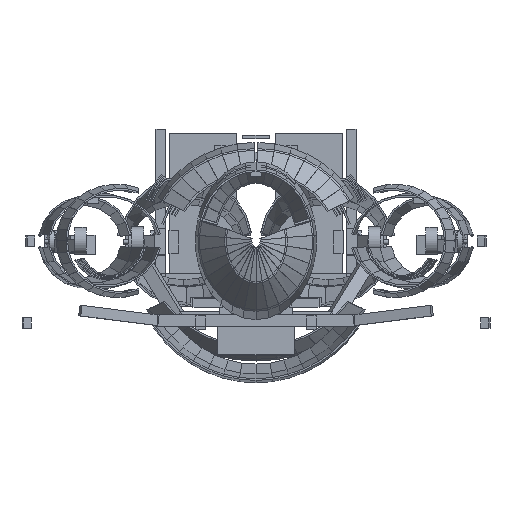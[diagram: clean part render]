
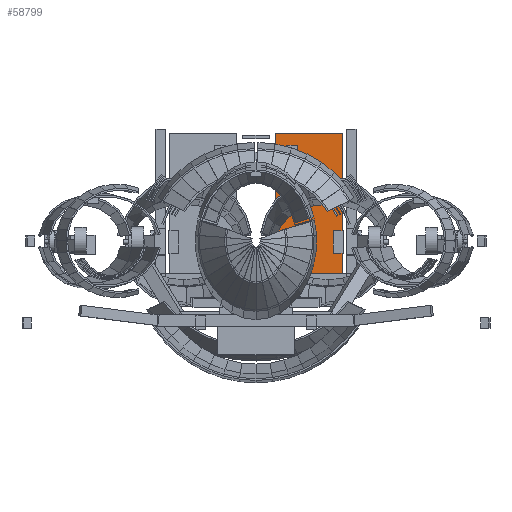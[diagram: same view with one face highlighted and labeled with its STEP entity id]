
A CAD part, top view. The second image highlights one B-rep face of the part: STEP entity #58799.
In plain terms, the highlighted planar face has unit normal (0, 0, 1).
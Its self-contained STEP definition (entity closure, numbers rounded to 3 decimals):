
#58485 = VERTEX_POINT('',#58486);
#58486 = CARTESIAN_POINT('',(-70.,-79.,-116.));
#58493 = PLANE('',#58494);
#58494 = AXIS2_PLACEMENT_3D('',#58495,#58496,#58497);
#58495 = CARTESIAN_POINT('',(-70.,-79.,-122.));
#58496 = DIRECTION('',(1.,0.,0.));
#58497 = DIRECTION('',(0.,0.,1.));
#58505 = PLANE('',#58506);
#58506 = AXIS2_PLACEMENT_3D('',#58507,#58508,#58509);
#58507 = CARTESIAN_POINT('',(-70.,-79.,-122.));
#58508 = DIRECTION('',(0.,1.,0.));
#58509 = DIRECTION('',(0.,0.,1.));
#58546 = VERTEX_POINT('',#58547);
#58547 = CARTESIAN_POINT('',(-70.,227.,-116.));
#58561 = PLANE('',#58562);
#58562 = AXIS2_PLACEMENT_3D('',#58563,#58564,#58565);
#58563 = CARTESIAN_POINT('',(-70.,227.,-122.));
#58564 = DIRECTION('',(0.,1.,0.));
#58565 = DIRECTION('',(0.,0.,1.));
#58573 = EDGE_CURVE('',#58485,#58546,#58574,.T.);
#58574 = SURFACE_CURVE('',#58575,(#58579,#58586),.PCURVE_S1.);
#58575 = LINE('',#58576,#58577);
#58576 = CARTESIAN_POINT('',(-70.,-79.,-116.));
#58577 = VECTOR('',#58578,1.);
#58578 = DIRECTION('',(0.,1.,0.));
#58579 = PCURVE('',#58493,#58580);
#58580 = DEFINITIONAL_REPRESENTATION('',(#58581),#58585);
#58581 = LINE('',#58582,#58583);
#58582 = CARTESIAN_POINT('',(6.,0.));
#58583 = VECTOR('',#58584,1.);
#58584 = DIRECTION('',(0.,-1.));
#58585 = ( GEOMETRIC_REPRESENTATION_CONTEXT(2) 
PARAMETRIC_REPRESENTATION_CONTEXT() REPRESENTATION_CONTEXT('2D SPACE',''
  ) );
#58586 = PCURVE('',#58587,#58592);
#58587 = PLANE('',#58588);
#58588 = AXIS2_PLACEMENT_3D('',#58589,#58590,#58591);
#58589 = CARTESIAN_POINT('',(-70.,-79.,-116.));
#58590 = DIRECTION('',(0.,0.,1.));
#58591 = DIRECTION('',(1.,0.,0.));
#58592 = DEFINITIONAL_REPRESENTATION('',(#58593),#58597);
#58593 = LINE('',#58594,#58595);
#58594 = CARTESIAN_POINT('',(0.,0.));
#58595 = VECTOR('',#58596,1.);
#58596 = DIRECTION('',(0.,1.));
#58597 = ( GEOMETRIC_REPRESENTATION_CONTEXT(2) 
PARAMETRIC_REPRESENTATION_CONTEXT() REPRESENTATION_CONTEXT('2D SPACE',''
  ) );
#58605 = VERTEX_POINT('',#58606);
#58606 = CARTESIAN_POINT('',(70.,-79.,-116.));
#58613 = PLANE('',#58614);
#58614 = AXIS2_PLACEMENT_3D('',#58615,#58616,#58617);
#58615 = CARTESIAN_POINT('',(70.,-79.,-122.));
#58616 = DIRECTION('',(1.,0.,0.));
#58617 = DIRECTION('',(0.,0.,1.));
#58656 = VERTEX_POINT('',#58657);
#58657 = CARTESIAN_POINT('',(70.,227.,-116.));
#58678 = EDGE_CURVE('',#58605,#58656,#58679,.T.);
#58679 = SURFACE_CURVE('',#58680,(#58684,#58691),.PCURVE_S1.);
#58680 = LINE('',#58681,#58682);
#58681 = CARTESIAN_POINT('',(70.,-79.,-116.));
#58682 = VECTOR('',#58683,1.);
#58683 = DIRECTION('',(0.,1.,0.));
#58684 = PCURVE('',#58613,#58685);
#58685 = DEFINITIONAL_REPRESENTATION('',(#58686),#58690);
#58686 = LINE('',#58687,#58688);
#58687 = CARTESIAN_POINT('',(6.,0.));
#58688 = VECTOR('',#58689,1.);
#58689 = DIRECTION('',(0.,-1.));
#58690 = ( GEOMETRIC_REPRESENTATION_CONTEXT(2) 
PARAMETRIC_REPRESENTATION_CONTEXT() REPRESENTATION_CONTEXT('2D SPACE',''
  ) );
#58691 = PCURVE('',#58587,#58692);
#58692 = DEFINITIONAL_REPRESENTATION('',(#58693),#58697);
#58693 = LINE('',#58694,#58695);
#58694 = CARTESIAN_POINT('',(140.,0.));
#58695 = VECTOR('',#58696,1.);
#58696 = DIRECTION('',(0.,1.));
#58697 = ( GEOMETRIC_REPRESENTATION_CONTEXT(2) 
PARAMETRIC_REPRESENTATION_CONTEXT() REPRESENTATION_CONTEXT('2D SPACE',''
  ) );
#58724 = EDGE_CURVE('',#58485,#58605,#58725,.T.);
#58725 = SURFACE_CURVE('',#58726,(#58730,#58737),.PCURVE_S1.);
#58726 = LINE('',#58727,#58728);
#58727 = CARTESIAN_POINT('',(-70.,-79.,-116.));
#58728 = VECTOR('',#58729,1.);
#58729 = DIRECTION('',(1.,0.,0.));
#58730 = PCURVE('',#58505,#58731);
#58731 = DEFINITIONAL_REPRESENTATION('',(#58732),#58736);
#58732 = LINE('',#58733,#58734);
#58733 = CARTESIAN_POINT('',(6.,0.));
#58734 = VECTOR('',#58735,1.);
#58735 = DIRECTION('',(0.,1.));
#58736 = ( GEOMETRIC_REPRESENTATION_CONTEXT(2) 
PARAMETRIC_REPRESENTATION_CONTEXT() REPRESENTATION_CONTEXT('2D SPACE',''
  ) );
#58737 = PCURVE('',#58587,#58738);
#58738 = DEFINITIONAL_REPRESENTATION('',(#58739),#58743);
#58739 = LINE('',#58740,#58741);
#58740 = CARTESIAN_POINT('',(0.,0.));
#58741 = VECTOR('',#58742,1.);
#58742 = DIRECTION('',(1.,0.));
#58743 = ( GEOMETRIC_REPRESENTATION_CONTEXT(2) 
PARAMETRIC_REPRESENTATION_CONTEXT() REPRESENTATION_CONTEXT('2D SPACE',''
  ) );
#58771 = EDGE_CURVE('',#58546,#58656,#58772,.T.);
#58772 = SURFACE_CURVE('',#58773,(#58777,#58784),.PCURVE_S1.);
#58773 = LINE('',#58774,#58775);
#58774 = CARTESIAN_POINT('',(-70.,227.,-116.));
#58775 = VECTOR('',#58776,1.);
#58776 = DIRECTION('',(1.,0.,0.));
#58777 = PCURVE('',#58561,#58778);
#58778 = DEFINITIONAL_REPRESENTATION('',(#58779),#58783);
#58779 = LINE('',#58780,#58781);
#58780 = CARTESIAN_POINT('',(6.,0.));
#58781 = VECTOR('',#58782,1.);
#58782 = DIRECTION('',(0.,1.));
#58783 = ( GEOMETRIC_REPRESENTATION_CONTEXT(2) 
PARAMETRIC_REPRESENTATION_CONTEXT() REPRESENTATION_CONTEXT('2D SPACE',''
  ) );
#58784 = PCURVE('',#58587,#58785);
#58785 = DEFINITIONAL_REPRESENTATION('',(#58786),#58790);
#58786 = LINE('',#58787,#58788);
#58787 = CARTESIAN_POINT('',(0.,306.));
#58788 = VECTOR('',#58789,1.);
#58789 = DIRECTION('',(1.,0.));
#58790 = ( GEOMETRIC_REPRESENTATION_CONTEXT(2) 
PARAMETRIC_REPRESENTATION_CONTEXT() REPRESENTATION_CONTEXT('2D SPACE',''
  ) );
#58799 = ADVANCED_FACE('',(#58800),#58587,.T.);
#58800 = FACE_BOUND('',#58801,.T.);
#58801 = EDGE_LOOP('',(#58802,#58803,#58804,#58805));
#58802 = ORIENTED_EDGE('',*,*,#58573,.F.);
#58803 = ORIENTED_EDGE('',*,*,#58724,.T.);
#58804 = ORIENTED_EDGE('',*,*,#58678,.T.);
#58805 = ORIENTED_EDGE('',*,*,#58771,.F.);
